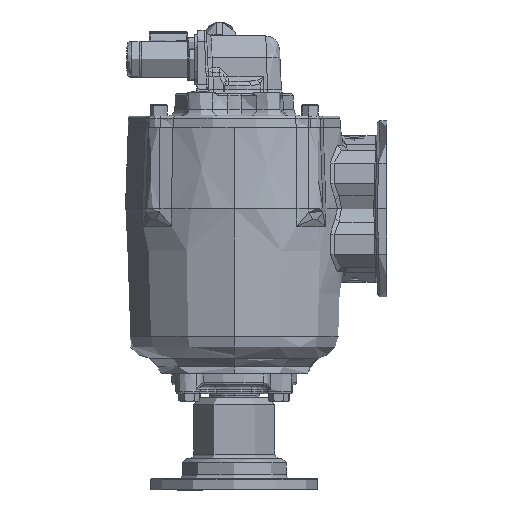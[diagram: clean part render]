
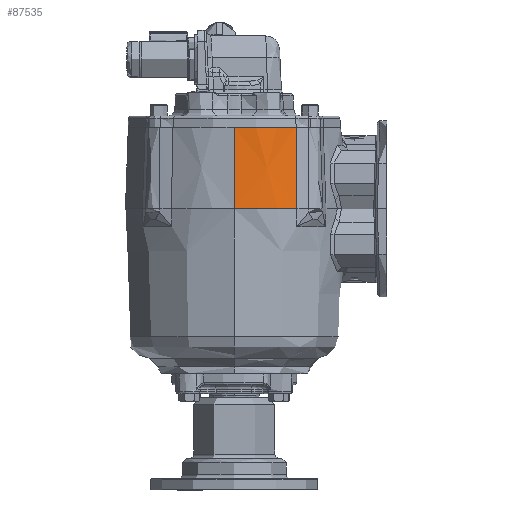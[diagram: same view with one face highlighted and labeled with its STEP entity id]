
A CAD part, left-side view. The second image highlights one B-rep face of the part: STEP entity #87535.
In plain terms, the highlighted conical face has half-angle 2 degrees and reference radius 78.232 mm.
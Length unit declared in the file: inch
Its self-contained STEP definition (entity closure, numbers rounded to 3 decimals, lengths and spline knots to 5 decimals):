
#8249 = DIRECTION ( 'NONE',  ( -1., 0., 0. ) ) ;
#10591 = CARTESIAN_POINT ( 'NONE',  ( -3.74018, 1.60955, 1.53298 ) ) ;
#18889 = DIRECTION ( 'NONE',  ( 1., 0., 0. ) ) ;
#23457 = VERTEX_POINT ( 'NONE', #127055 ) ;
#29689 = ORIENTED_EDGE ( 'NONE', *, *, #146118, .T. ) ;
#37123 = EDGE_LOOP ( 'NONE', ( #29689, #42565, #125282, #60431 ) ) ;
#40524 = FACE_OUTER_BOUND ( 'NONE', #37123, .T. ) ;
#42565 = ORIENTED_EDGE ( 'NONE', *, *, #94878, .T. ) ;
#44500 = VERTEX_POINT ( 'NONE', #70867 ) ;
#44988 = CARTESIAN_POINT ( 'NONE',  ( -3.76669, 1.60156, 0.77814 ) ) ;
#53021 = DIRECTION ( 'NONE',  ( -0.035, 0., -0.999 ) ) ;
#60431 = ORIENTED_EDGE ( 'NONE', *, *, #125215, .T. ) ;
#67329 = CARTESIAN_POINT ( 'NONE',  ( -1.25, 3.3296, 0. ) ) ;
#70867 = CARTESIAN_POINT ( 'NONE',  ( -3.79389, 1.59322, 0. ) ) ;
#81168 = CARTESIAN_POINT ( 'NONE',  ( -4.33, 3.3296, 0. ) ) ;
#83457 = DIRECTION ( 'NONE',  ( 0., 0., -1. ) ) ;
#83799 = VECTOR ( 'NONE', #53021, 39.37008 ) ;
#86020 = VERTEX_POINT ( 'NONE', #156888 ) ;
#87535 = ADVANCED_FACE ( 'NONE', ( #40524 ), #151780, .T. ) ;
#88449 = CARTESIAN_POINT ( 'NONE',  ( -4.33, 3.3296, 0. ) ) ;
#89506 = LINE ( 'NONE', #88449, #83799 ) ;
#92174 = CARTESIAN_POINT ( 'NONE',  ( -1.25, 3.3296, 2.2645 ) ) ;
#92346 = CARTESIAN_POINT ( 'NONE',  ( -3.71437, 1.61717, 2.2645 ) ) ;
#94878 = EDGE_CURVE ( 'NONE', #86020, #194067, #89506, .T. ) ;
#125215 = EDGE_CURVE ( 'NONE', #44500, #23457, #173080, .T. ) ;
#125282 = ORIENTED_EDGE ( 'NONE', *, *, #199778, .F. ) ;
#127055 = CARTESIAN_POINT ( 'NONE',  ( -3.71437, 1.61717, 2.2645 ) ) ;
#139137 = AXIS2_PLACEMENT_3D ( 'NONE', #92174, #207292, #208355 ) ;
#139434 = CARTESIAN_POINT ( 'NONE',  ( -1.25, 3.3296, 0. ) ) ;
#144074 = CIRCLE ( 'NONE', #150822, 3.08 ) ;
#146118 = EDGE_CURVE ( 'NONE', #23457, #86020, #180508, .T. ) ;
#150822 = AXIS2_PLACEMENT_3D ( 'NONE', #67329, #83457, #18889 ) ;
#151780 = CONICAL_SURFACE ( 'NONE', #175798, 3.08, 0.035 ) ;
#156888 = CARTESIAN_POINT ( 'NONE',  ( -4.25092, 3.3296, 2.2645 ) ) ;
#158991 = CARTESIAN_POINT ( 'NONE',  ( -3.79389, 1.59322, 0. ) ) ;
#171775 = DIRECTION ( 'NONE',  ( 0., 0., -1. ) ) ;
#173080 = B_SPLINE_CURVE_WITH_KNOTS ( 'NONE', 3,
 ( #158991, #44988, #10591, #92346 ),
 .UNSPECIFIED., .F., .F.,
 ( 4, 4 ),
 ( 0., 1. ),
 .UNSPECIFIED. ) ;
#175798 = AXIS2_PLACEMENT_3D ( 'NONE', #139434, #171775, #8249 ) ;
#180508 = CIRCLE ( 'NONE', #139137, 3.00092 ) ;
#194067 = VERTEX_POINT ( 'NONE', #81168 ) ;
#199778 = EDGE_CURVE ( 'NONE', #44500, #194067, #144074, .T. ) ;
#207292 = DIRECTION ( 'NONE',  ( 0., 0., -1. ) ) ;
#208355 = DIRECTION ( 'NONE',  ( -1., 0., 0. ) ) ;
